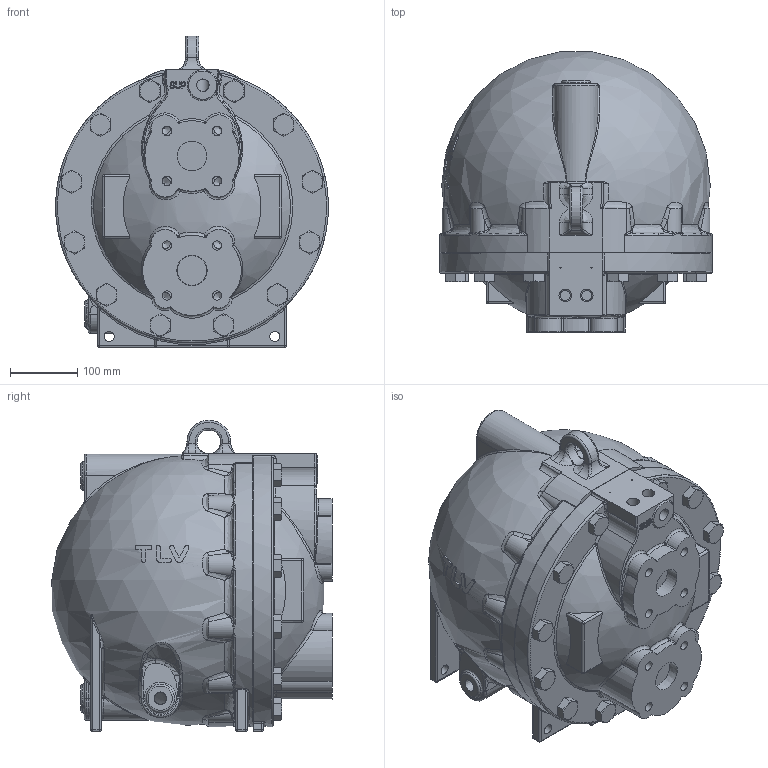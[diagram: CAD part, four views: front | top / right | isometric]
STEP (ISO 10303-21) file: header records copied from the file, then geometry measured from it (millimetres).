
FILE_DESCRIPTION(/* description */ (''),/* implementation_level */ '2;1');
FILE_NAME(/* name */ 'H:\nakaot\Inventor\COS\GPGT\gp14m-040-jis16-01.stp',/* time_stamp */ '2019-10-21T09:21:13+09:00',/* author */ ('nakaot'),/* organization */ (''),/* preprocessor_version */ 'ST-DEVELOPER v18',/* originating_system */ 'Autodesk Inventor 2020',/* authorisation */ '');
FILE_SCHEMA (('AUTOMOTIVE_DESIGN { 1 0 10303 214 3 1 1 }'));
Products named in the file (1): gt14m-040-jis16-01
Bounding box: 404.98 x 415.9 x 463 mm (x, y, z)
Volume: 38574895.9 mm3; surface area: 1057983.4 mm2
Topology: 1 solids, 4 shells, 892 faces, 2289 edges, 1371 vertices
Faces by surface type: bspline 254, plane 216, cylinder 212, cone 92, torus 90, sphere 28
Full cylindrical faces by diameter (mm): 1.6 x2, 13.835 x8, 14.95 x2, 15 x4, 17.5 x1, 18.631 x3, 20 x12, 22 x12, 35 x1, 44 x1
Entity records: 42421 total; most frequent: CARTESIAN_POINT 22046, ORIENTED_EDGE 4400, DIRECTION 3615, EDGE_CURVE 2200, AXIS2_PLACEMENT_3D 1547, VERTEX_POINT 1371, EDGE_LOOP 981, CIRCLE 901
